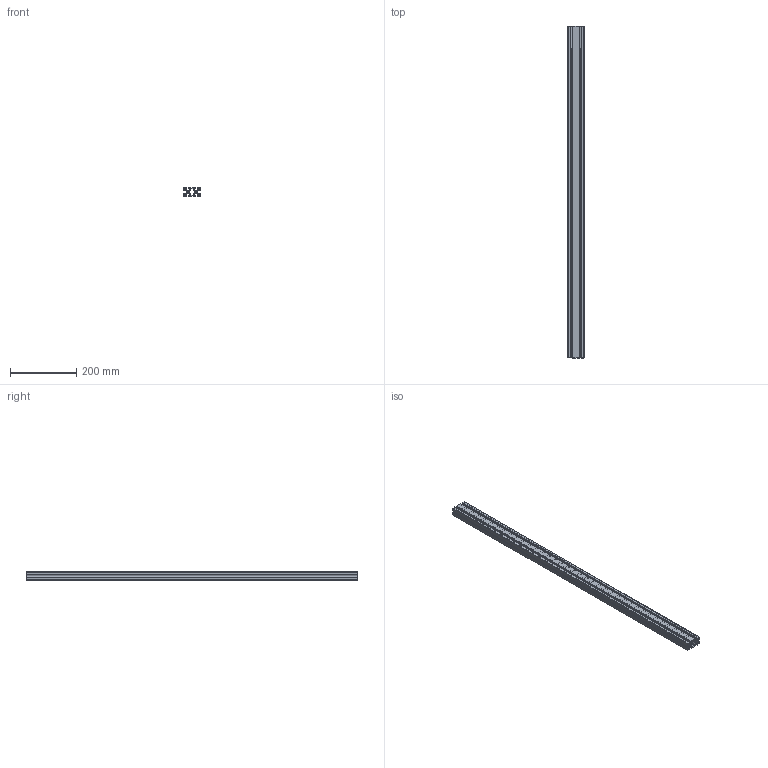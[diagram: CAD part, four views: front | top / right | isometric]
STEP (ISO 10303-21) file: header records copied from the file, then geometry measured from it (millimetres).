
FILE_DESCRIPTION (( 'STEP AP214' ), '1' );
FILE_NAME ('PEP5025-1000.STEP', '2019-10-30T01:15:50', ( '微软用户' ), ( '微软中国' ), 'SwSTEP 2.0', 'SolidWorks 2016', '' );
FILE_SCHEMA (( 'AUTOMOTIVE_DESIGN' ));
Length unit declared in the file: millimetre
Products named in the file (1): PEP5025-1000
Bounding box: 50 x 1000 x 25 mm (x, y, z)
Volume: 434396.6 mm3; surface area: 443660.2 mm2
Topology: 1 solids, 1 shells, 204 faces, 606 edges, 404 vertices
Faces by surface type: plane 110, cylinder 94
Entity records: 9184 total; most frequent: CARTESIAN_POINT 1215, ORIENTED_EDGE 1212, DIRECTION 1204, EDGE_CURVE 606, VECTOR 418, LINE 418, VERTEX_POINT 404, AXIS2_PLACEMENT_3D 393
